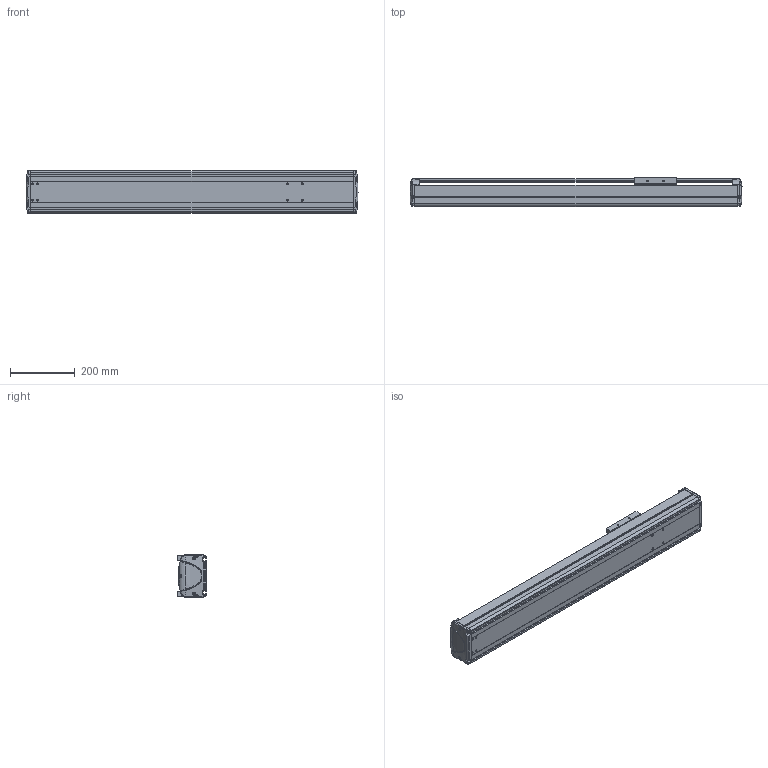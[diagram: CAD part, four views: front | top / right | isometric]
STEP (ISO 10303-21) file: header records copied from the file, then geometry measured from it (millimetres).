
FILE_DESCRIPTION((''),'2;1');
FILE_NAME('BE30E-ST-M_B-65_IGS_PRT','2017-06-17T',(' '),(''),'PRO/ENGINEER BY PARAMETRIC TECHNOLOGY CORPORATION, 2015030','PRO/ENGINEER BY PARAMETRIC TECHNOLOGY CORPORATION, 2015030','');
FILE_SCHEMA(('CONFIG_CONTROL_DESIGN'));
Length unit declared in the file: millimetre
Products named in the file (1): BE30E-ST-M_B-65_IGS_PRT
Bounding box: 1025 x 89.8 x 130 mm (x, y, z)
Volume: 3134082.5 mm3; surface area: 1242699 mm2
Topology: 3 solids, 82 shells, 1328 faces, 3553 edges, 2323 vertices
Faces by surface type: cylinder 591, plane 582, bspline 55, torus 44, cone 32, sphere 24
Entity records: 44450 total; most frequent: CARTESIAN_POINT 11146, DIRECTION 6870, ORIENTED_EDGE 6756, EDGE_CURVE 3533, AXIS2_PLACEMENT_3D 2480, VERTEX_POINT 2323, VECTOR 1910, LINE 1910
